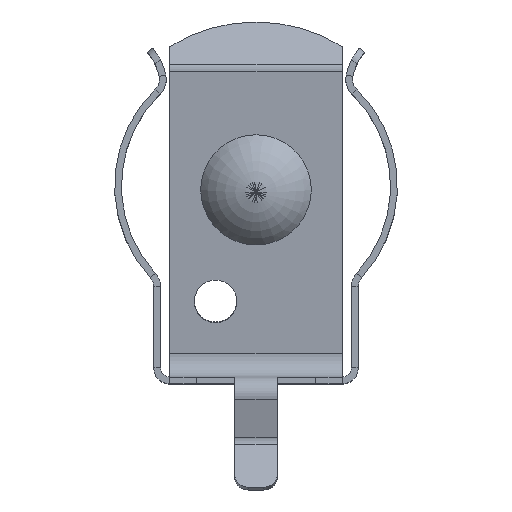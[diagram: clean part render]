
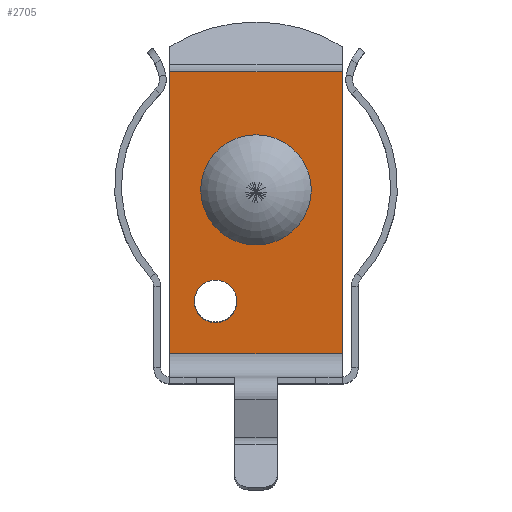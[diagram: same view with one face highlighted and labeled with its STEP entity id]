
A CAD part, top view. The second image highlights one B-rep face of the part: STEP entity #2705.
In plain terms, the highlighted planar face has unit normal (0, -0.087, 0.996) as drawn and (0, -0.996, -0.087) by its records, which use the part's own axes.
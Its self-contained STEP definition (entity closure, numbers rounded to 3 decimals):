
#37 = EDGE_CURVE ( 'NONE', #772, #1556, #2828, .T. ) ;
#187 = EDGE_CURVE ( 'NONE', #2655, #772, #1254, .T. ) ;
#205 = DIRECTION ( 'NONE',  ( 0., -0.996, -0.087 ) ) ;
#264 = AXIS2_PLACEMENT_3D ( 'NONE', #415, #2119, #2936 ) ;
#271 = DIRECTION ( 'NONE',  ( 0., 0.087, -0.996 ) ) ;
#415 = CARTESIAN_POINT ( 'NONE',  ( 0., 3.915, 6.907 ) ) ;
#437 = FACE_BOUND ( 'NONE', #640, .T. ) ;
#454 = DIRECTION ( 'NONE',  ( 0., -0.996, -0.087 ) ) ;
#455 = EDGE_LOOP ( 'NONE', ( #597, #2996, #2113, #3312 ) ) ;
#486 = CARTESIAN_POINT ( 'NONE',  ( 0., 4.092, 4.879 ) ) ;
#488 = CARTESIAN_POINT ( 'NONE',  ( 3.175, 3.534, 11.257 ) ) ;
#597 = ORIENTED_EDGE ( 'NONE', *, *, #3384, .F. ) ;
#640 = EDGE_LOOP ( 'NONE', ( #2559 ) ) ;
#759 = CARTESIAN_POINT ( 'NONE',  ( -1.49, 4.274, 2.8 ) ) ;
#772 = VERTEX_POINT ( 'NONE', #488 ) ;
#874 = LINE ( 'NONE', #1174, #1574 ) ;
#995 = DIRECTION ( 'NONE',  ( -1., 0., 0. ) ) ;
#1025 = CARTESIAN_POINT ( 'NONE',  ( -3.175, 4.443, 0.87 ) ) ;
#1046 = VERTEX_POINT ( 'NONE', #486 ) ;
#1174 = CARTESIAN_POINT ( 'NONE',  ( -3.175, 3.534, 11.257 ) ) ;
#1237 = DIRECTION ( 'NONE',  ( 1., 0., 0. ) ) ;
#1254 = LINE ( 'NONE', #1770, #3559 ) ;
#1338 = VERTEX_POINT ( 'NONE', #3583 ) ;
#1556 = VERTEX_POINT ( 'NONE', #3652 ) ;
#1570 = PLANE ( 'NONE',  #2809 ) ;
#1571 = VECTOR ( 'NONE', #995, 1000. ) ;
#1574 = VECTOR ( 'NONE', #2854, 1000. ) ;
#1577 = ORIENTED_EDGE ( 'NONE', *, *, #3508, .T. ) ;
#1602 = LINE ( 'NONE', #3280, #1571 ) ;
#1741 = CIRCLE ( 'NONE', #2460, 0.785 ) ;
#1770 = CARTESIAN_POINT ( 'NONE',  ( 3.175, 3.534, 11.257 ) ) ;
#1858 = FACE_OUTER_BOUND ( 'NONE', #455, .T. ) ;
#1886 = DIRECTION ( 'NONE',  ( 0., 0.087, -0.996 ) ) ;
#2113 = ORIENTED_EDGE ( 'NONE', *, *, #37, .F. ) ;
#2119 = DIRECTION ( 'NONE',  ( 0., 0.996, 0.087 ) ) ;
#2235 = CARTESIAN_POINT ( 'NONE',  ( 3.175, 4.519, 0. ) ) ;
#2403 = FACE_BOUND ( 'NONE', #3016, .T. ) ;
#2457 = CARTESIAN_POINT ( 'NONE',  ( -3.175, 3.534, 11.257 ) ) ;
#2460 = AXIS2_PLACEMENT_3D ( 'NONE', #759, #205, #1886 ) ;
#2559 = ORIENTED_EDGE ( 'NONE', *, *, #3123, .F. ) ;
#2655 = VERTEX_POINT ( 'NONE', #2457 ) ;
#2680 = EDGE_CURVE ( 'NONE', #1556, #3051, #1602, .T. ) ;
#2705 = ADVANCED_FACE ( 'NONE', ( #2403, #437, #1858 ), #1570, .T. ) ;
#2717 = DIRECTION ( 'NONE',  ( 0., 0.087, -0.996 ) ) ;
#2809 = AXIS2_PLACEMENT_3D ( 'NONE', #2994, #454, #2717 ) ;
#2828 = LINE ( 'NONE', #2235, #3557 ) ;
#2854 = DIRECTION ( 'NONE',  ( 0., -0.087, 0.996 ) ) ;
#2871 = CIRCLE ( 'NONE', #264, 2.036 ) ;
#2936 = DIRECTION ( 'NONE',  ( 0., 0.087, -0.996 ) ) ;
#2994 = CARTESIAN_POINT ( 'NONE',  ( 0., 4.483, 0.414 ) ) ;
#2996 = ORIENTED_EDGE ( 'NONE', *, *, #2680, .F. ) ;
#3016 = EDGE_LOOP ( 'NONE', ( #1577 ) ) ;
#3051 = VERTEX_POINT ( 'NONE', #1025 ) ;
#3123 = EDGE_CURVE ( 'NONE', #1338, #1338, #1741, .T. ) ;
#3280 = CARTESIAN_POINT ( 'NONE',  ( 3.175, 4.443, 0.87 ) ) ;
#3312 = ORIENTED_EDGE ( 'NONE', *, *, #187, .F. ) ;
#3384 = EDGE_CURVE ( 'NONE', #3051, #2655, #874, .T. ) ;
#3508 = EDGE_CURVE ( 'NONE', #1046, #1046, #2871, .T. ) ;
#3557 = VECTOR ( 'NONE', #271, 1000. ) ;
#3559 = VECTOR ( 'NONE', #1237, 1000. ) ;
#3583 = CARTESIAN_POINT ( 'NONE',  ( -1.49, 4.343, 2.018 ) ) ;
#3652 = CARTESIAN_POINT ( 'NONE',  ( 3.175, 4.443, 0.87 ) ) ;
